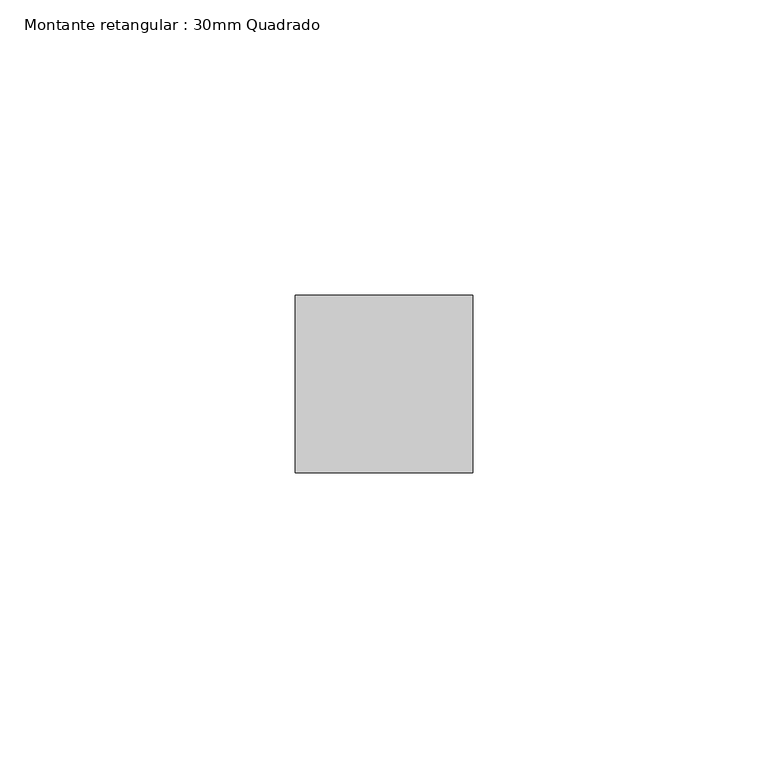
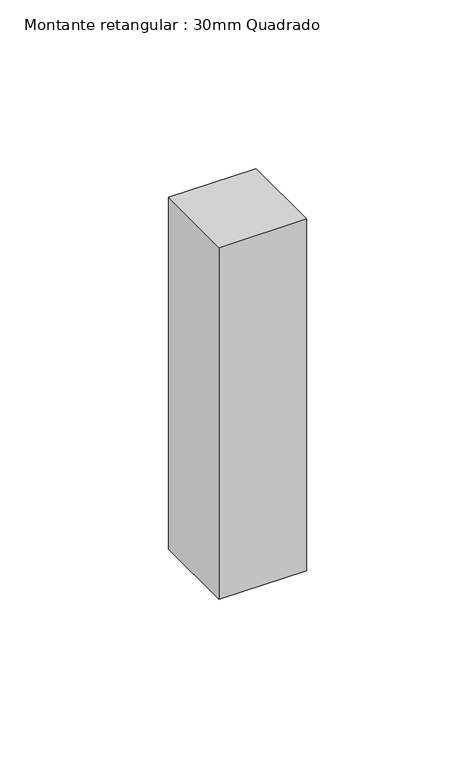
"""IFC4 building model written with IfcOpenShell, lengths in millimetres: member geometry, Montante retangular : 30mm Quadrado."""

import ifcopenshell
import ifcopenshell.guid

model = None  # the IFC model being written
_history = None  # IfcOwnerHistory: only IFC2X3 demands one
_inside = {}  # id of a spatial element -> (the spatial element, [elements in it])
_under = {}  # id of a project, library or spatial element -> (it, [spatial elements below it])
_declared = {}  # id of a project -> (the project, [libraries it declares])
_typed = {}  # id of a type object -> (the type object, [elements of that type])
_made_of = {}  # id of a material, layer set ... -> (it, [elements and type objects made of it])


def new_model(schema):
    """Start an empty IFC model of exactly this schema.

    Asked for "IFC4X3", IfcOpenShell would pick the latest addendum, in which some entities
    have other attributes; the version numbers below select the first issue.
    IFC2X3 requires an IfcOwnerHistory on every rooted entity: one is made here for all.
    """
    global model, _history
    if schema == "IFC4X3":
        model = ifcopenshell.file(schema_version=(4, 3, 0, 0))
    else:
        model = ifcopenshell.file(schema=schema)
    _inside.clear()
    _under.clear()
    _declared.clear()
    _typed.clear()
    _made_of.clear()
    _history = None
    if model.schema == "IFC2X3":
        org = make("IfcOrganization", Name="unknown")
        user = make(
            "IfcPersonAndOrganization",
            ThePerson=make("IfcPerson", FamilyName="unknown"),
            TheOrganization=org,
        )
        app = make(
            "IfcApplication",
            ApplicationDeveloper=org,
            Version="unknown",
            ApplicationFullName="unknown",
            ApplicationIdentifier="unknown",
        )
        _history = make(
            "IfcOwnerHistory",
            OwningUser=user,
            OwningApplication=app,
            ChangeAction="ADDED",
            CreationDate=0,
        )
    return model


def make(cls, **values):
    """One entity of the class cls with the attributes given. An attribute that is None is left unset."""
    return model.create_entity(
        cls, **{name: value for name, value in values.items() if value is not None}
    )


def rooted(cls, **values):
    """An entity with a GlobalId (a new one), such as an element, a storey or a relation."""
    return make(cls, GlobalId=ifcopenshell.guid.new(), OwnerHistory=_history, **values)


def si_unit(unit_type, name, prefix=None):
    """IfcSIUnit, for example si_unit("LENGTHUNIT", "METRE", prefix="MILLI")."""
    return make("IfcSIUnit", UnitType=unit_type, Prefix=prefix, Name=name)


def assignment(units):
    """IfcUnitAssignment: the units of a project."""
    return None if units is None else make("IfcUnitAssignment", Units=units)


def point(xyz):
    """IfcCartesianPoint."""
    return None if xyz is None else make("IfcCartesianPoint", Coordinates=xyz)


def direction(xyz):
    """IfcDirection."""
    return None if xyz is None else make("IfcDirection", DirectionRatios=xyz)


def frame(location, z_axis=None, x_axis=None):
    """IfcAxis2Placement3D, a coordinate frame: its origin and axes. An axis left out is left unset."""
    return make(
        "IfcAxis2Placement3D",
        Location=point(location),
        Axis=direction(z_axis),
        RefDirection=direction(x_axis),
    )


def origin():
    """The frame at (0, 0, 0) with its axes left unset."""
    return frame((0.0, 0.0, 0.0))


def place(relative_to, where):
    """IfcLocalPlacement: puts the frame where relative to a parent placement (None: the world)."""
    return make(
        "IfcLocalPlacement", PlacementRelTo=relative_to, RelativePlacement=where
    )


def context(
    kind, dimensions, precision=None, world=None, true_north=None, identifier=None
):
    """IfcGeometricRepresentationContext, for example the 3D "Model" context."""
    return make(
        "IfcGeometricRepresentationContext",
        ContextIdentifier=identifier,
        ContextType=kind,
        CoordinateSpaceDimension=dimensions,
        Precision=precision,
        WorldCoordinateSystem=world,
        TrueNorth=true_north,
    )


def project(units=None, contexts=None):
    """IfcProject with its units and contexts."""
    return rooted(
        "IfcProject",
        Name="project",
        RepresentationContexts=contexts,
        UnitsInContext=assignment(units),
    )


def spatial(cls, under=None, at=None, **own):
    """A site, building, storey or space (cls), placed at a placement, below another one or the project."""
    s = rooted(cls, ObjectPlacement=at, **own)
    if under is not None:
        _under.setdefault(under.id(), (under, []))[1].append(s)
    return s


def polyline(points):
    """IfcPolyline through the points."""
    return make("IfcPolyline", Points=[point(p) for p in points])


def outline(outer, holes=None, kind="AREA"):
    """IfcArbitraryClosedProfileDef: a profile drawn as a closed curve; with holes, ...WithVoids."""
    if holes is None:
        return make("IfcArbitraryClosedProfileDef", ProfileType=kind, OuterCurve=outer)
    return make(
        "IfcArbitraryProfileDefWithVoids",
        ProfileType=kind,
        OuterCurve=outer,
        InnerCurves=holes,
    )


def extrude(swept, where, along, depth):
    """IfcExtrudedAreaSolid: the profile swept, set in the frame where, extruded along a direction by depth."""
    return make(
        "IfcExtrudedAreaSolid",
        SweptArea=swept,
        Position=where,
        ExtrudedDirection=direction(along),
        Depth=depth,
    )


def shape(context_of_items, identifier, shape_type, items):
    """IfcShapeRepresentation: the items that make up one representation, for example the "Body"."""
    return make(
        "IfcShapeRepresentation",
        ContextOfItems=context_of_items,
        RepresentationIdentifier=identifier,
        RepresentationType=shape_type,
        Items=items,
    )


def source(mapping_origin, context_of_items, identifier, shape_type, items):
    """IfcRepresentationMap: a shape defined once, which mapped items show again and again."""
    return make(
        "IfcRepresentationMap",
        MappingOrigin=mapping_origin,
        MappedRepresentation=shape(context_of_items, identifier, shape_type, items),
    )


def transform(
    local_origin,
    x_axis=None,
    y_axis=None,
    z_axis=None,
    scale=None,
    scale2=None,
    scale3=None,
    uniform=True,
):
    """IfcCartesianTransformationOperator3D, or its non-uniform kind. x_axis, y_axis, z_axis: its Axis1, 2, 3."""
    if uniform:
        return make(
            "IfcCartesianTransformationOperator3D",
            Axis1=direction(x_axis),
            Axis2=direction(y_axis),
            LocalOrigin=point(local_origin),
            Scale=scale,
            Axis3=direction(z_axis),
        )
    return make(
        "IfcCartesianTransformationOperator3DnonUniform",
        Axis1=direction(x_axis),
        Axis2=direction(y_axis),
        LocalOrigin=point(local_origin),
        Scale=scale,
        Axis3=direction(z_axis),
        Scale2=scale2,
        Scale3=scale3,
    )


def mapped(mapping_source, mapping_target):
    """IfcMappedItem: shows the shape of a source again, moved by a transform."""
    return make(
        "IfcMappedItem", MappingSource=mapping_source, MappingTarget=mapping_target
    )


def made_of(thing, what):
    """Note that an element or type object is made of a material, layer set ...; save() writes the relation."""
    if what is not None:
        _made_of.setdefault(what.id(), (what, []))[1].append(thing)
    return thing


def element(
    cls,
    number,
    at=None,
    inside=None,
    cuts=None,
    type_object=None,
    material=None,
    context=None,
    identifier="Body",
    shape_type=None,
    held_by="IfcProductDefinitionShape",
    body=None,
    shapes=None,
    **own,
):
    """One element of the class cls, such as IfcWall. Its Tag is "e" and its number.

    at: its placement. inside: the storey or other place that contains it. cuts: it is an
    opening in that element (IfcRelVoidsElement). A single representation is given by context,
    identifier, shape_type and body (its items); several are given by shapes. held_by: the class
    of the entity that holds the representations. save() writes the other relations.
    """
    e = rooted(cls, Tag="e%d" % number, ObjectPlacement=at, **own)
    if body is not None:
        shapes = [shape(context, identifier, shape_type, body)]
    if shapes is not None:
        e.Representation = make(held_by, Representations=shapes)
    if inside is not None:
        _inside.setdefault(inside.id(), (inside, []))[1].append(e)
    if cuts is not None:
        rooted(
            "IfcRelVoidsElement", RelatingBuildingElement=cuts, RelatedOpeningElement=e
        )
    if type_object is not None:
        _typed.setdefault(type_object.id(), (type_object, []))[1].append(e)
    return made_of(e, material)


def aggregate(whole, parts):
    """IfcRelAggregates: a whole, such as a stair, and the parts it consists of."""
    return rooted("IfcRelAggregates", RelatingObject=whole, RelatedObjects=parts)


def save(model, path):
    """Write the relations noted so far, then the file.

    IfcRelAggregates (storeys below a building ...), IfcRelContainedInSpatialStructure (elements
    in a storey), IfcRelDefinesByType, IfcRelAssociatesMaterial and IfcRelDeclares: one each for
    every whole, place, type object, material and project.
    """
    for whole, parts in _under.values():
        aggregate(whole, parts)
    for where, things in _inside.values():
        rooted(
            "IfcRelContainedInSpatialStructure",
            RelatedElements=things,
            RelatingStructure=where,
        )
    for kind, things in _typed.values():
        rooted("IfcRelDefinesByType", RelatedObjects=things, RelatingType=kind)
    for what, things in _made_of.values():
        rooted("IfcRelAssociatesMaterial", RelatedObjects=things, RelatingMaterial=what)
    for by, libraries in _declared.values():
        rooted("IfcRelDeclares", RelatingContext=by, RelatedDefinitions=libraries)
    model.write(path)


def montante_retangular_30mm_quadrado_1e3c183d(model_context):
    return source(origin(), model_context, "Body", "SweptSolid", [
        extrude(outline(polyline([(15.0, 15.0), (15.0, -15.0), (-15.0, -15.0), (-15.0, 15.0), (15.0, 15.0)])), frame((0.0, 0.0, -127.4309144), z_axis=(0.0, 0.0, 1.0), x_axis=(1.0, 0.0, 0.0)), (0.0, 0.0, 1.0), 127.4309144),
    ])


if __name__ == "__main__":
    model = new_model("IFC4")
    model_context = context("Model", 3, world=origin())
    ifc_project = project(units=[si_unit("LENGTHUNIT", "METRE", prefix="MILLI")], contexts=[model_context])
    site = spatial("IfcSite", under=ifc_project)
    building = spatial("IfcBuilding", under=site)
    placement = place(None, origin())
    montante_retangular_30mm_quadrado_shape = montante_retangular_30mm_quadrado_1e3c183d(model_context)
    element("IfcMember", 1, ObjectType="Montante retangular : 30mm Quadrado", at=placement, inside=building, context=model_context, shape_type="MappedRepresentation", body=[
        mapped(montante_retangular_30mm_quadrado_shape, transform((0.0, 0.0, 0.0), x_axis=(1.0, 0.0, 0.0), y_axis=(0.0, 1.0, 0.0), z_axis=(0.0, 0.0, 1.0))),
    ])
    save(model, "model.ifc")
